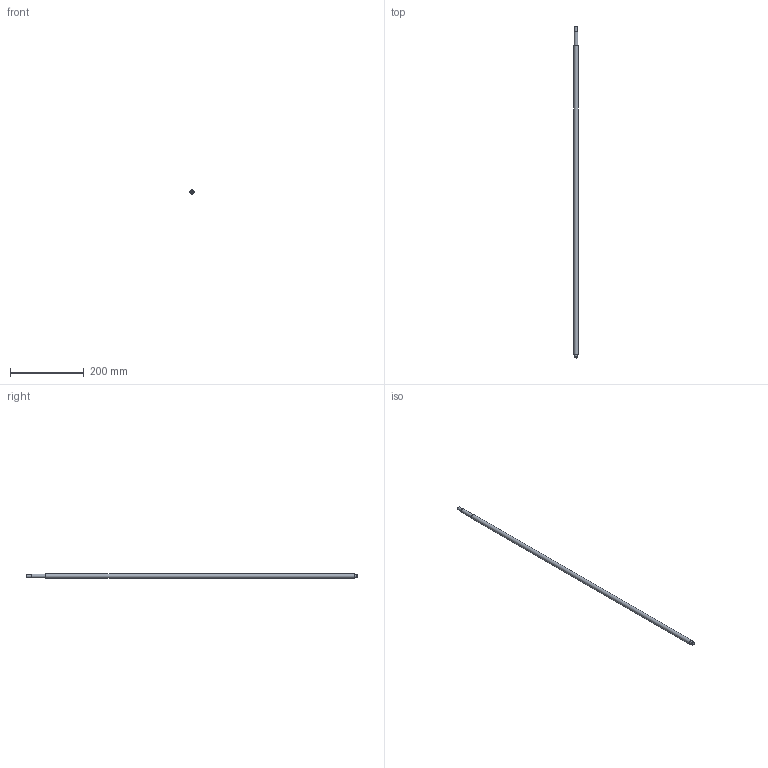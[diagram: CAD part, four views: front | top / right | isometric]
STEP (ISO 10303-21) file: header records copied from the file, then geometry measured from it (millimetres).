
FILE_DESCRIPTION(/* description */ (''),/* implementation_level */ '2;1');
FILE_NAME(/* name */ 'C:\Users\David\Desktop\stepFiles\Profilfuehrung\KUS1204x900.stp',/* time_stamp */ '2018-06-24T15:05:15+02:00',/* author */ ('David'),/* organization */ (''),/* preprocessor_version */ 'ST-DEVELOPER v17',/* originating_system */ 'Autodesk Inventor 2019',/* authorisation */ '');
FILE_SCHEMA (('AUTOMOTIVE_DESIGN { 1 0 10303 214 3 1 1 }'));
Length unit declared in the file: millimetre
Products named in the file (1): SFU1204xvariabel
Bounding box: 12 x 900 x 12 mm (x, y, z)
Volume: 98858.6 mm3; surface area: 33589.5 mm2
Topology: 1 solids, 1 shells, 15 faces, 34 edges, 26 vertices
Faces by surface type: plane 7, cylinder 6, cone 2
Full cylindrical faces by diameter (mm): 7.6 x1, 8 x3, 10 x1, 12 x1
Entity records: 493 total; most frequent: DIRECTION 92, CARTESIAN_POINT 76, ORIENTED_EDGE 68, AXIS2_PLACEMENT_3D 42, EDGE_CURVE 34, CIRCLE 26, VERTEX_POINT 26, EDGE_LOOP 20
